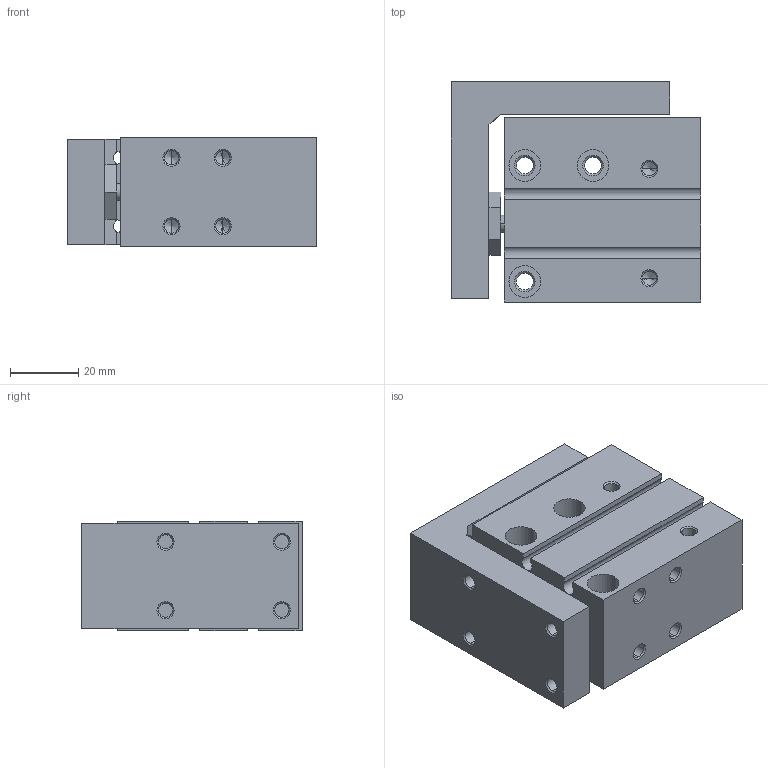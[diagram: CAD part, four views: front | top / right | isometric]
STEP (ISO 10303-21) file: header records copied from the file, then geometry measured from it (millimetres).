
FILE_DESCRIPTION (( 'STEP AP203' ), '1' );
FILE_NAME ('CXH20-5.STEP', '2020-04-16T18:13:48', ( '' ), ( '' ), 'SwSTEP 2.0', 'SolidWorks 2019', '' );
FILE_SCHEMA (( 'CONFIG_CONTROL_DESIGN' ));
Length unit declared in the file: millimetre
Products named in the file (1): CXH20-5
Bounding box: 73 x 64.5 x 32 mm (x, y, z)
Volume: 125402.2 mm3; surface area: 33650.6 mm2
Topology: 2 solids, 2 shells, 210 faces, 499 edges, 288 vertices
Faces by surface type: cone 90, cylinder 76, plane 44
Entity records: 6040 total; most frequent: DIRECTION 1099, CARTESIAN_POINT 1080, ORIENTED_EDGE 942, EDGE_CURVE 471, AXIS2_PLACEMENT_3D 423, VERTEX_POINT 288, EDGE_LOOP 255, VECTOR 253
